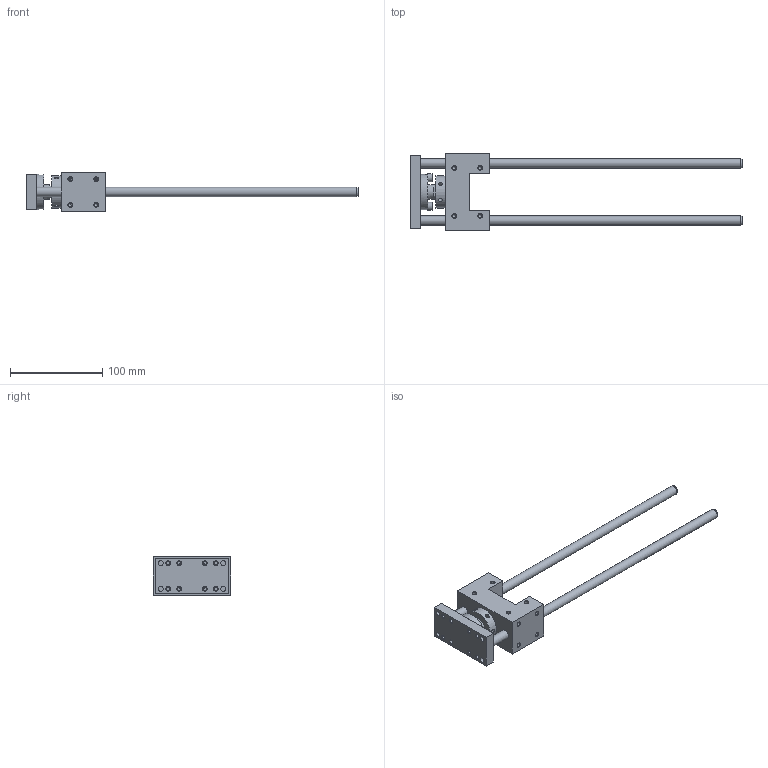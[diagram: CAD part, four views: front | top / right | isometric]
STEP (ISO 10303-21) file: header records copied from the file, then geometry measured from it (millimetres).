
FILE_DESCRIPTION( ( 'STEP AP214' ), '1' );
FILE_NAME( 'U:/Etudes/Top Solid/BIBLIO 3D AVM/TOP/PNEUMATIQUE/GUIDAGES/Type 34 (en U)/_Légère/3435110.step', '2005-05-27T12:17:22', ( ' ' ), ( ' ' ), 'XStep 1.0', ' ', ' ' );
FILE_SCHEMA( ( 'automotive_design' ) );
Length unit declared in the file: metre
Products named in the file (2): 1; 2
Bounding box: 360 x 84 x 42 mm (x, y, z)
Volume: 213870.8 mm3; surface area: 64038.9 mm2
Topology: 2 solids, 5 shells, 176 faces, 458 edges, 295 vertices
Faces by surface type: cylinder 69, plane 57, cone 50
Full cylindrical faces by diameter (mm): 4.134 x36, 4.2 x6, 5 x4, 5.5 x6, 8.5 x2, 8.647 x2, 10 x4, 16 x1, 18 x1, 20.376 x2, 22.8 x1, 25 x2, 35 x1, 38 x1
Entity records: 6505 total; most frequent: CARTESIAN_POINT 1502, DIRECTION 764, ORIENTED_EDGE 526, EDGE_LOOP 356, AXIS2_PLACEMENT_3D 341, EDGE_CURVE 263, FACE_OUTER_BOUND 245, VERTEX_POINT 231
